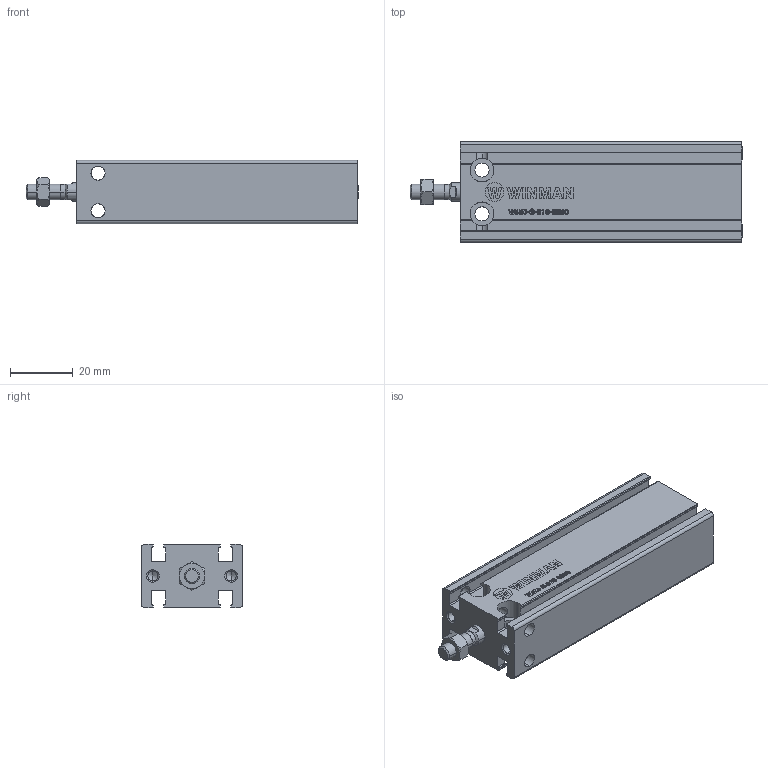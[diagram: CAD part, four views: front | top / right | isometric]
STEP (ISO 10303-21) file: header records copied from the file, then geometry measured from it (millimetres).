
FILE_DESCRIPTION (( 'STEP AP214' ), '1' );
FILE_NAME ('WMD-S-016-0050 (3D).STEP', '2019-10-09T10:37:29', ( '' ), ( '' ), 'SwSTEP 2.0', 'SolidWorks 2016', '' );
FILE_SCHEMA (( 'AUTOMOTIVE_DESIGN' ));
Length unit declared in the file: millimetre
Products named in the file (4): WMD-S-016-0050 (3D); WMD-S-016-0050 - Nut Rod; WMD-S-016-0050 - Body; WMD-S-016-0050 - Rod
Assembly tree (3 placements, depth 2):
  WMD-S-016-0050 (3D)
    WMD-S-016-0050 - Body
    WMD-S-016-0050 - Rod
    WMD-S-016-0050 - Nut Rod
Bounding box: 106 x 32.2 x 20.2 mm (x, y, z)
Volume: 39030.9 mm3; surface area: 22324.8 mm2
Topology: 3 solids, 3 shells, 481 faces, 1288 edges, 841 vertices
Faces by surface type: plane 243, cylinder 110, bspline 87, cone 41
Entity records: 23022 total; most frequent: CARTESIAN_POINT 8675, ORIENTED_EDGE 2560, DIRECTION 2049, EDGE_CURVE 1280, VERTEX_POINT 841, VECTOR 795, LINE 795, AXIS2_PLACEMENT_3D 627
